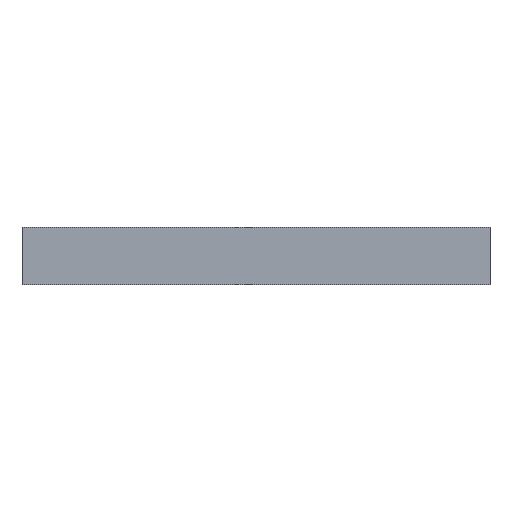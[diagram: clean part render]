
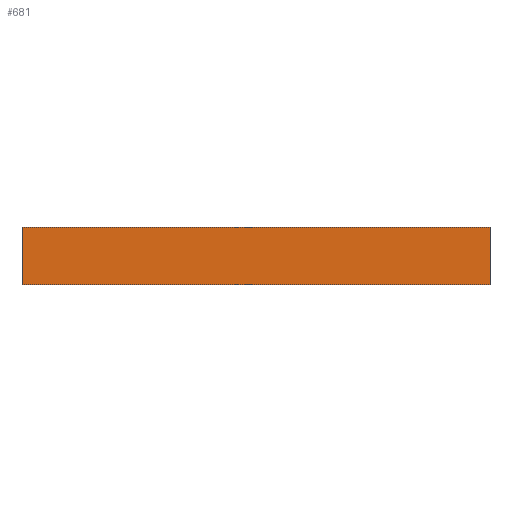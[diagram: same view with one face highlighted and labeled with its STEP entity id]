
A CAD part, front view. The second image highlights one B-rep face of the part: STEP entity #681.
In plain terms, the highlighted planar face has unit normal (0, -1, 0).
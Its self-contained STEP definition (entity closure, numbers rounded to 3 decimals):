
#50=DIRECTION('',(0.,0.,1.));
#51=VECTOR('',#50,48.);
#52=CARTESIAN_POINT('',(-194.,-1038.,-24.));
#53=LINE('',#52,#51);
#72=DIRECTION('',(0.,0.,1.));
#73=VECTOR('',#72,48.);
#74=CARTESIAN_POINT('',(194.,-1038.,-24.));
#75=LINE('',#74,#73);
#76=DIRECTION('',(1.,0.,0.));
#77=VECTOR('',#76,388.);
#78=CARTESIAN_POINT('',(-194.,-1038.,-24.));
#79=LINE('',#78,#77);
#98=DIRECTION('',(1.,0.,0.));
#99=VECTOR('',#98,388.);
#100=CARTESIAN_POINT('',(-194.,-1038.,24.));
#101=LINE('',#100,#99);
#489=CARTESIAN_POINT('',(-194.,-1038.,-24.));
#490=VERTEX_POINT('',#489);
#491=CARTESIAN_POINT('',(-194.,-1038.,24.));
#492=VERTEX_POINT('',#491);
#493=CARTESIAN_POINT('',(194.,-1038.,-24.));
#494=VERTEX_POINT('',#493);
#495=CARTESIAN_POINT('',(194.,-1038.,24.));
#496=VERTEX_POINT('',#495);
#667=CARTESIAN_POINT('',(235.335,-1038.,-31.335));
#668=DIRECTION('',(0.,-1.,0.));
#669=DIRECTION('',(1.,0.,0.));
#670=AXIS2_PLACEMENT_3D('',#667,#668,#669);
#671=PLANE('',#670);
#673=ORIENTED_EDGE('',*,*,#672,.F.);
#675=ORIENTED_EDGE('',*,*,#674,.F.);
#676=ORIENTED_EDGE('',*,*,#656,.T.);
#678=ORIENTED_EDGE('',*,*,#677,.T.);
#679=EDGE_LOOP('',(#673,#675,#676,#678));
#680=FACE_OUTER_BOUND('',#679,.F.);
#681=ADVANCED_FACE('',(#680),#671,.T.);
#656=EDGE_CURVE('',#490,#492,#53,.T.);
#672=EDGE_CURVE('',#494,#496,#75,.T.);
#674=EDGE_CURVE('',#490,#494,#79,.T.);
#677=EDGE_CURVE('',#492,#496,#101,.T.);
